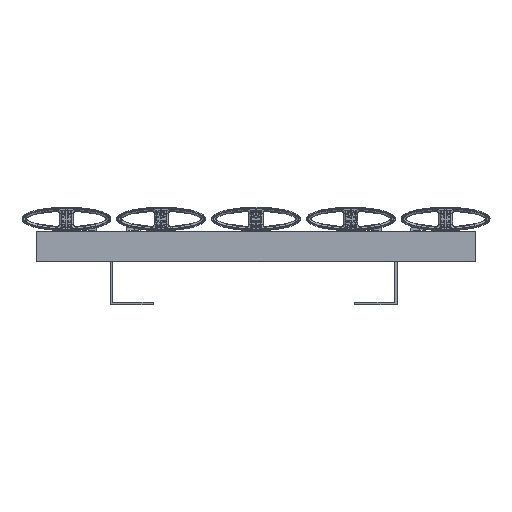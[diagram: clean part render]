
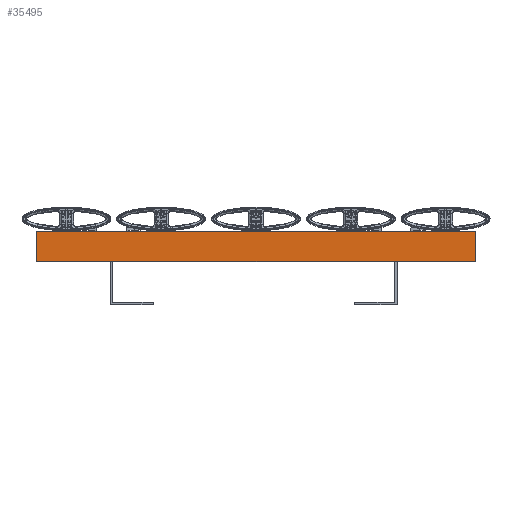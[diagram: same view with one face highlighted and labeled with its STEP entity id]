
A CAD part, front view. The second image highlights one B-rep face of the part: STEP entity #35495.
In plain terms, the highlighted planar face has unit normal (0, -1, 0) as drawn and (-1, 0, 0) by its records, which use the part's own axes.
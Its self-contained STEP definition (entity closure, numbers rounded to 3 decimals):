
#2402 = VERTEX_POINT ( 'NONE', #17728 ) ;
#2417 = VERTEX_POINT ( 'NONE', #17745 ) ;
#2450 = VERTEX_POINT ( 'NONE', #5030 ) ;
#2476 = VERTEX_POINT ( 'NONE', #5034 ) ;
#5030 = CARTESIAN_POINT ( 'NONE',  ( -14.25, 0., 12.45 ) ) ;
#5034 = CARTESIAN_POINT ( 'NONE',  ( -14.25, 370., -12.45 ) ) ;
#5918 = EDGE_CURVE ( 'NONE', #2402, #2450, #18181, .T. ) ;
#5934 = EDGE_CURVE ( 'NONE', #2476, #2402, #18199, .T. ) ;
#6072 = EDGE_CURVE ( 'NONE', #2476, #2417, #18363, .T. ) ;
#6152 = EDGE_CURVE ( 'NONE', #2417, #2450, #18445, .T. ) ;
#8636 = ORIENTED_EDGE ( 'NONE', *, *, #6152, .T. ) ;
#8648 = ORIENTED_EDGE ( 'NONE', *, *, #5918, .F. ) ;
#8733 = ORIENTED_EDGE ( 'NONE', *, *, #6072, .T. ) ;
#8761 = ORIENTED_EDGE ( 'NONE', *, *, #5934, .F. ) ;
#12238 = DIRECTION ( 'NONE',  ( 0., 0., 1. ) ) ;
#12262 = CARTESIAN_POINT ( 'NONE',  ( -14.25, 0., 0. ) ) ;
#12734 = DIRECTION ( 'NONE',  ( 0., -1., 0. ) ) ;
#12742 = CARTESIAN_POINT ( 'NONE',  ( -14.25, 370., -12.45 ) ) ;
#14894 = DIRECTION ( 'NONE',  ( 0., -1., 0. ) ) ;
#14919 = CARTESIAN_POINT ( 'NONE',  ( -14.25, 370., 0. ) ) ;
#14921 = DIRECTION ( 'NONE',  ( 0., 0., 1. ) ) ;
#14927 = CARTESIAN_POINT ( 'NONE',  ( -14.25, 370., 12.45 ) ) ;
#17728 = CARTESIAN_POINT ( 'NONE',  ( -14.25, 370., 12.45 ) ) ;
#17745 = CARTESIAN_POINT ( 'NONE',  ( -14.25, 0., -12.45 ) ) ;
#18181 = LINE ( 'NONE', #14927, #18183 ) ;
#18183 = VECTOR ( 'NONE', #14894, 1000. ) ;
#18199 = LINE ( 'NONE', #14919, #18201 ) ;
#18201 = VECTOR ( 'NONE', #14921, 1000. ) ;
#18363 = LINE ( 'NONE', #12742, #18365 ) ;
#18365 = VECTOR ( 'NONE', #12734, 1000. ) ;
#18445 = LINE ( 'NONE', #12262, #18446 ) ;
#18446 = VECTOR ( 'NONE', #12238, 1000. ) ;
#19008 = EDGE_LOOP ( 'NONE', ( #8636, #8648, #8761, #8733 ) ) ;
#22245 = FACE_OUTER_BOUND ( 'NONE', #19008, .T. ) ;
#33835 = PLANE ( 'NONE',  #39137 ) ;
#33836 = CARTESIAN_POINT ( 'NONE',  ( -14.25, 370., 0. ) ) ;
#33837 = DIRECTION ( 'NONE',  ( 1., 0., 0. ) ) ;
#33838 = DIRECTION ( 'NONE',  ( 0., 0., -1. ) ) ;
#35495 = ADVANCED_FACE ( 'NONE', ( #22245 ), #33835, .F. ) ;
#39137 = AXIS2_PLACEMENT_3D ( 'NONE', #33836, #33837, #33838 ) ;
